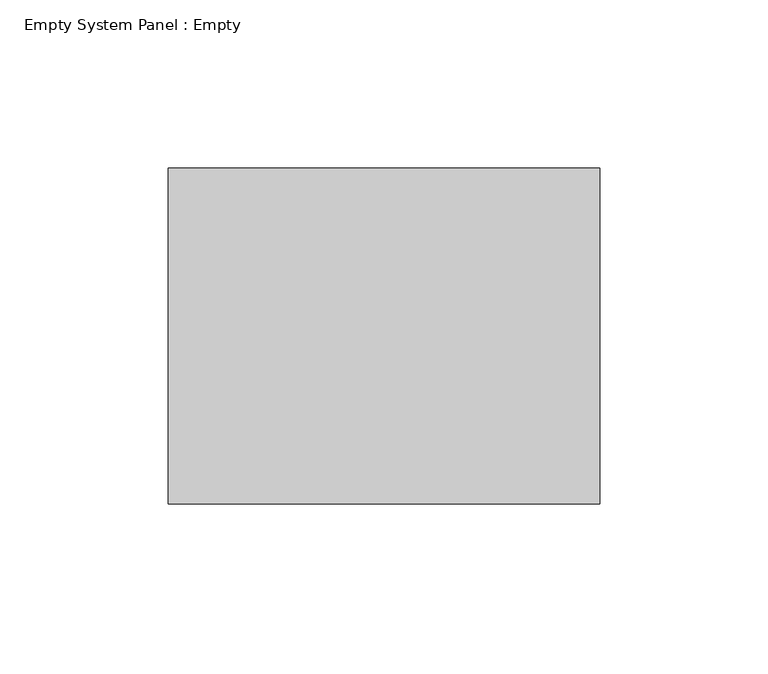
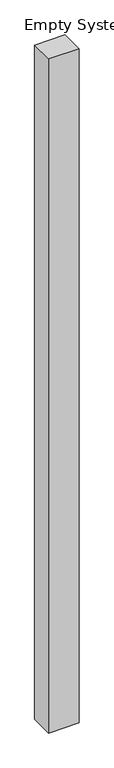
"""IFC4 building model written with IfcOpenShell, lengths in millimetres: plate geometry, Empty System Panel : Empty."""

from ifc_helpers import new_model, si_unit, origin, origin_with_axes, place, context, project, spatial, polyline, outline, extrude, source, transform, mapped, element, save


def empty_system_panel_empty_1239baa2(model_context):
    return source(origin(), model_context, "Body", "SweptSolid", [
        extrude(outline(polyline([(64.187805, 50.0), (-64.187805, 50.0), (-64.187805, 150.0), (64.187805, 150.0), (64.187805, 50.0)])), origin_with_axes(), (0.0, 0.0, 1.0), 3000.0),
    ])


if __name__ == "__main__":
    model = new_model("IFC4")
    model_context = context("Model", 3, world=origin())
    ifc_project = project(units=[si_unit("LENGTHUNIT", "METRE", prefix="MILLI")], contexts=[model_context])
    site = spatial("IfcSite", under=ifc_project)
    building = spatial("IfcBuilding", under=site)
    placement = place(None, origin())
    empty_system_panel_empty_shape = empty_system_panel_empty_1239baa2(model_context)
    element("IfcPlate", 1, ObjectType="Empty System Panel : Empty", at=placement, inside=building, context=model_context, shape_type="MappedRepresentation", body=[
        mapped(empty_system_panel_empty_shape, transform((0.0, 0.0, 0.0), x_axis=(1.0, 0.0, 0.0), y_axis=(0.0, 1.0, 0.0), z_axis=(0.0, 0.0, 1.0))),
    ])
    save(model, "model.ifc")
